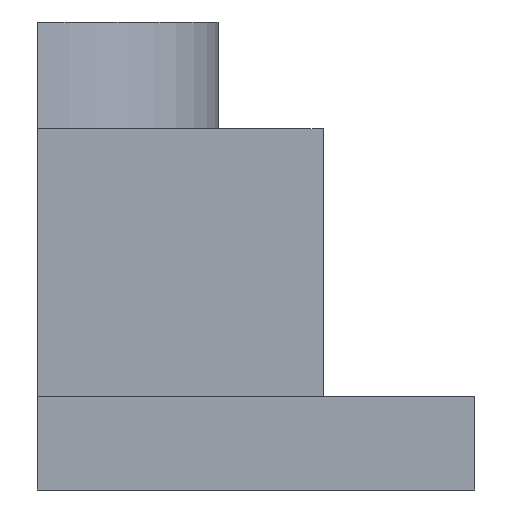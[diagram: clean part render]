
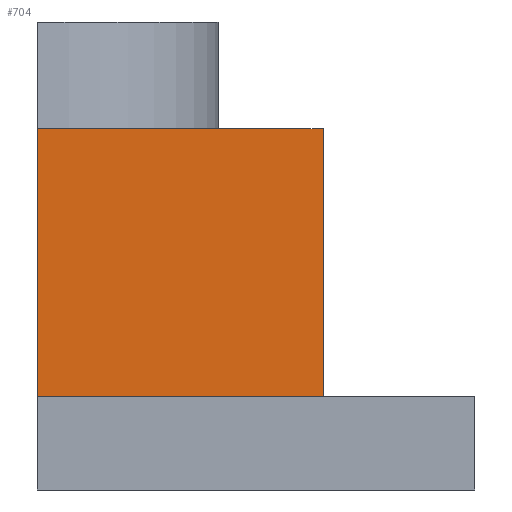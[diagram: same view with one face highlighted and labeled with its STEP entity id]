
A CAD part, left-side view. The second image highlights one B-rep face of the part: STEP entity #704.
In plain terms, the highlighted planar face has unit normal (-1, 0, 0).
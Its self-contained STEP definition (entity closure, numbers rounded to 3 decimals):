
#44 = PLANE('',#45);
#45 = AXIS2_PLACEMENT_3D('',#46,#47,#48);
#46 = CARTESIAN_POINT('',(-10.75,-20.32,-1.2));
#47 = DIRECTION('',(0.,0.,1.));
#48 = DIRECTION('',(1.,0.,0.));
#125 = PLANE('',#126);
#126 = AXIS2_PLACEMENT_3D('',#127,#128,#129);
#127 = CARTESIAN_POINT('',(-26.75,-16.57,-3.));
#128 = DIRECTION('',(0.,1.,0.));
#129 = DIRECTION('',(0.,0.,1.));
#246 = VERTEX_POINT('',#247);
#247 = CARTESIAN_POINT('',(-8.75,-19.02,-1.2));
#261 = PLANE('',#262);
#262 = AXIS2_PLACEMENT_3D('',#263,#264,#265);
#263 = CARTESIAN_POINT('',(-8.75,-19.02,-1.2));
#264 = DIRECTION('',(0.,1.,0.));
#265 = DIRECTION('',(0.,0.,1.));
#273 = EDGE_CURVE('',#246,#274,#276,.T.);
#274 = VERTEX_POINT('',#275);
#275 = CARTESIAN_POINT('',(-8.75,-16.57,-1.2));
#276 = SURFACE_CURVE('',#277,(#281,#288),.PCURVE_S1.);
#277 = LINE('',#278,#279);
#278 = CARTESIAN_POINT('',(-8.75,-19.02,-1.2));
#279 = VECTOR('',#280,1.);
#280 = DIRECTION('',(0.,1.,0.));
#281 = PCURVE('',#44,#282);
#282 = DEFINITIONAL_REPRESENTATION('',(#283),#287);
#283 = LINE('',#284,#285);
#284 = CARTESIAN_POINT('',(2.,1.3));
#285 = VECTOR('',#286,1.);
#286 = DIRECTION('',(0.,1.));
#287 = ( GEOMETRIC_REPRESENTATION_CONTEXT(2) 
PARAMETRIC_REPRESENTATION_CONTEXT() REPRESENTATION_CONTEXT('2D SPACE',''
  ) );
#288 = PCURVE('',#289,#294);
#289 = PLANE('',#290);
#290 = AXIS2_PLACEMENT_3D('',#291,#292,#293);
#291 = CARTESIAN_POINT('',(-8.75,-19.02,-1.2));
#292 = DIRECTION('',(1.,0.,0.));
#293 = DIRECTION('',(0.,0.,1.));
#294 = DEFINITIONAL_REPRESENTATION('',(#295),#299);
#295 = LINE('',#296,#297);
#296 = CARTESIAN_POINT('',(0.,0.));
#297 = VECTOR('',#298,1.);
#298 = DIRECTION('',(0.,-1.));
#299 = ( GEOMETRIC_REPRESENTATION_CONTEXT(2) 
PARAMETRIC_REPRESENTATION_CONTEXT() REPRESENTATION_CONTEXT('2D SPACE',''
  ) );
#346 = EDGE_CURVE('',#274,#347,#349,.T.);
#347 = VERTEX_POINT('',#348);
#348 = CARTESIAN_POINT('',(-8.75,-16.57,1.1));
#349 = SURFACE_CURVE('',#350,(#354,#360),.PCURVE_S1.);
#350 = LINE('',#351,#352);
#351 = CARTESIAN_POINT('',(-8.75,-16.57,-2.1));
#352 = VECTOR('',#353,1.);
#353 = DIRECTION('',(0.,0.,1.));
#354 = PCURVE('',#125,#355);
#355 = DEFINITIONAL_REPRESENTATION('',(#356),#359);
#356 = B_SPLINE_CURVE_WITH_KNOTS('',1,(#357,#358),.UNSPECIFIED.,.F.,.F.,
  (2,2),(0.9,3.2),.PIECEWISE_BEZIER_KNOTS.);
#357 = CARTESIAN_POINT('',(1.8,18.));
#358 = CARTESIAN_POINT('',(4.1,18.));
#359 = ( GEOMETRIC_REPRESENTATION_CONTEXT(2) 
PARAMETRIC_REPRESENTATION_CONTEXT() REPRESENTATION_CONTEXT('2D SPACE',''
  ) );
#360 = PCURVE('',#289,#361);
#361 = DEFINITIONAL_REPRESENTATION('',(#362),#365);
#362 = B_SPLINE_CURVE_WITH_KNOTS('',1,(#363,#364),.UNSPECIFIED.,.F.,.F.,
  (2,2),(0.9,3.2),.PIECEWISE_BEZIER_KNOTS.);
#363 = CARTESIAN_POINT('',(0.,-2.45));
#364 = CARTESIAN_POINT('',(2.3,-2.45));
#365 = ( GEOMETRIC_REPRESENTATION_CONTEXT(2) 
PARAMETRIC_REPRESENTATION_CONTEXT() REPRESENTATION_CONTEXT('2D SPACE',''
  ) );
#382 = PLANE('',#383);
#383 = AXIS2_PLACEMENT_3D('',#384,#385,#386);
#384 = CARTESIAN_POINT('',(-8.75,-19.02,1.1));
#385 = DIRECTION('',(0.,0.,1.));
#386 = DIRECTION('',(1.,0.,0.));
#704 = ADVANCED_FACE('',(#705),#289,.F.);
#705 = FACE_BOUND('',#706,.F.);
#706 = EDGE_LOOP('',(#707,#730,#751,#752));
#707 = ORIENTED_EDGE('',*,*,#708,.F.);
#708 = EDGE_CURVE('',#709,#347,#711,.T.);
#709 = VERTEX_POINT('',#710);
#710 = CARTESIAN_POINT('',(-8.75,-19.02,1.1));
#711 = SURFACE_CURVE('',#712,(#716,#723),.PCURVE_S1.);
#712 = LINE('',#713,#714);
#713 = CARTESIAN_POINT('',(-8.75,-19.02,1.1));
#714 = VECTOR('',#715,1.);
#715 = DIRECTION('',(0.,1.,0.));
#716 = PCURVE('',#289,#717);
#717 = DEFINITIONAL_REPRESENTATION('',(#718),#722);
#718 = LINE('',#719,#720);
#719 = CARTESIAN_POINT('',(2.3,0.));
#720 = VECTOR('',#721,1.);
#721 = DIRECTION('',(0.,-1.));
#722 = ( GEOMETRIC_REPRESENTATION_CONTEXT(2) 
PARAMETRIC_REPRESENTATION_CONTEXT() REPRESENTATION_CONTEXT('2D SPACE',''
  ) );
#723 = PCURVE('',#382,#724);
#724 = DEFINITIONAL_REPRESENTATION('',(#725),#729);
#725 = LINE('',#726,#727);
#726 = CARTESIAN_POINT('',(0.,0.));
#727 = VECTOR('',#728,1.);
#728 = DIRECTION('',(0.,1.));
#729 = ( GEOMETRIC_REPRESENTATION_CONTEXT(2) 
PARAMETRIC_REPRESENTATION_CONTEXT() REPRESENTATION_CONTEXT('2D SPACE',''
  ) );
#730 = ORIENTED_EDGE('',*,*,#731,.F.);
#731 = EDGE_CURVE('',#246,#709,#732,.T.);
#732 = SURFACE_CURVE('',#733,(#737,#744),.PCURVE_S1.);
#733 = LINE('',#734,#735);
#734 = CARTESIAN_POINT('',(-8.75,-19.02,-1.2));
#735 = VECTOR('',#736,1.);
#736 = DIRECTION('',(0.,0.,1.));
#737 = PCURVE('',#289,#738);
#738 = DEFINITIONAL_REPRESENTATION('',(#739),#743);
#739 = LINE('',#740,#741);
#740 = CARTESIAN_POINT('',(0.,0.));
#741 = VECTOR('',#742,1.);
#742 = DIRECTION('',(1.,0.));
#743 = ( GEOMETRIC_REPRESENTATION_CONTEXT(2) 
PARAMETRIC_REPRESENTATION_CONTEXT() REPRESENTATION_CONTEXT('2D SPACE',''
  ) );
#744 = PCURVE('',#261,#745);
#745 = DEFINITIONAL_REPRESENTATION('',(#746),#750);
#746 = LINE('',#747,#748);
#747 = CARTESIAN_POINT('',(0.,0.));
#748 = VECTOR('',#749,1.);
#749 = DIRECTION('',(1.,0.));
#750 = ( GEOMETRIC_REPRESENTATION_CONTEXT(2) 
PARAMETRIC_REPRESENTATION_CONTEXT() REPRESENTATION_CONTEXT('2D SPACE',''
  ) );
#751 = ORIENTED_EDGE('',*,*,#273,.T.);
#752 = ORIENTED_EDGE('',*,*,#346,.T.);
